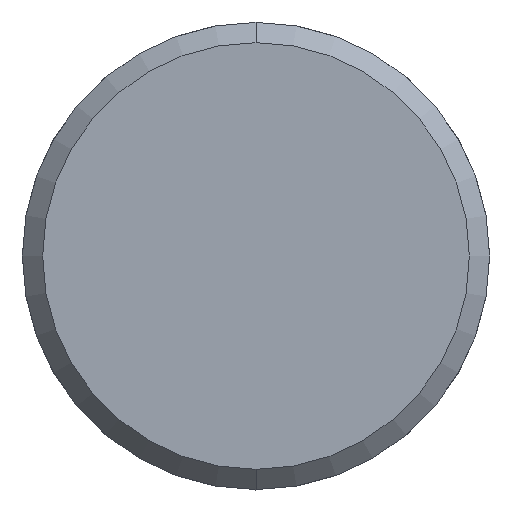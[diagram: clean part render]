
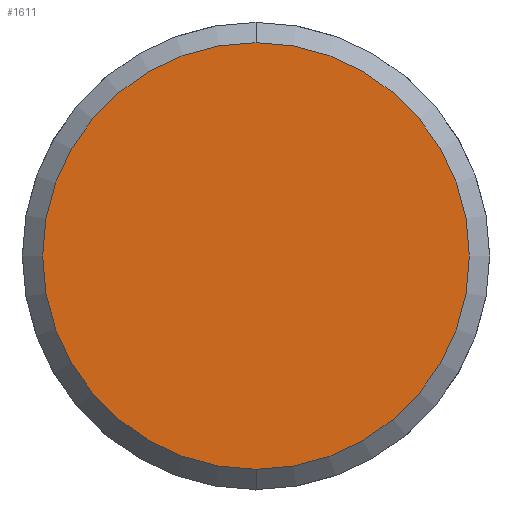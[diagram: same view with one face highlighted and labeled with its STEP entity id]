
A CAD part, front view. The second image highlights one B-rep face of the part: STEP entity #1611.
In plain terms, the highlighted planar face has unit normal (0, -1, 0).
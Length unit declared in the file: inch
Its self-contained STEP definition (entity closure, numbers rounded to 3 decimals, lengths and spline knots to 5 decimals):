
#374 = CARTESIAN_POINT ( 'NONE',  ( -0.83263, -0.52312, -0.658 ) ) ;
#381 = CARTESIAN_POINT ( 'NONE',  ( -0.83263, -0.52312, 0.658 ) ) ;
#478 = EDGE_LOOP ( 'NONE', ( #2394, #2406 ) ) ;
#1611 = ADVANCED_FACE ( 'NONE', ( #4147 ), #3862, .T. ) ;
#1672 = EDGE_CURVE ( 'NONE', #2396, #2387, #4364, .T. ) ;
#1687 = EDGE_CURVE ( 'NONE', #2387, #2396, #4383, .T. ) ;
#2387 = VERTEX_POINT ( 'NONE', #374 ) ;
#2394 = ORIENTED_EDGE ( 'NONE', *, *, #1672, .T. ) ;
#2396 = VERTEX_POINT ( 'NONE', #381 ) ;
#2406 = ORIENTED_EDGE ( 'NONE', *, *, #1687, .T. ) ;
#3496 = AXIS2_PLACEMENT_3D ( 'NONE', #3884, #3885, #3886 ) ;
#3862 = PLANE ( 'NONE',  #3496 ) ;
#3884 = CARTESIAN_POINT ( 'NONE',  ( -0.30813, -0.52312, 0. ) ) ;
#3885 = DIRECTION ( 'NONE',  ( 0., -1., 0. ) ) ;
#3886 = DIRECTION ( 'NONE',  ( 0., 0., -1. ) ) ;
#4147 = FACE_OUTER_BOUND ( 'NONE', #478, .T. ) ;
#4364 = CIRCLE ( 'NONE', #4538, 0.658 ) ;
#4383 = CIRCLE ( 'NONE', #4549, 0.658 ) ;
#4538 = AXIS2_PLACEMENT_3D ( 'NONE', #4624, #4625, #4626 ) ;
#4549 = AXIS2_PLACEMENT_3D ( 'NONE', #4703, #4704, #4705 ) ;
#4624 = CARTESIAN_POINT ( 'NONE',  ( -0.83263, -0.52312, 0. ) ) ;
#4625 = DIRECTION ( 'NONE',  ( 0., -1., 0. ) ) ;
#4626 = DIRECTION ( 'NONE',  ( 0., 0., 1. ) ) ;
#4703 = CARTESIAN_POINT ( 'NONE',  ( -0.83263, -0.52312, 0. ) ) ;
#4704 = DIRECTION ( 'NONE',  ( 0., -1., 0. ) ) ;
#4705 = DIRECTION ( 'NONE',  ( 0., 0., 1. ) ) ;
